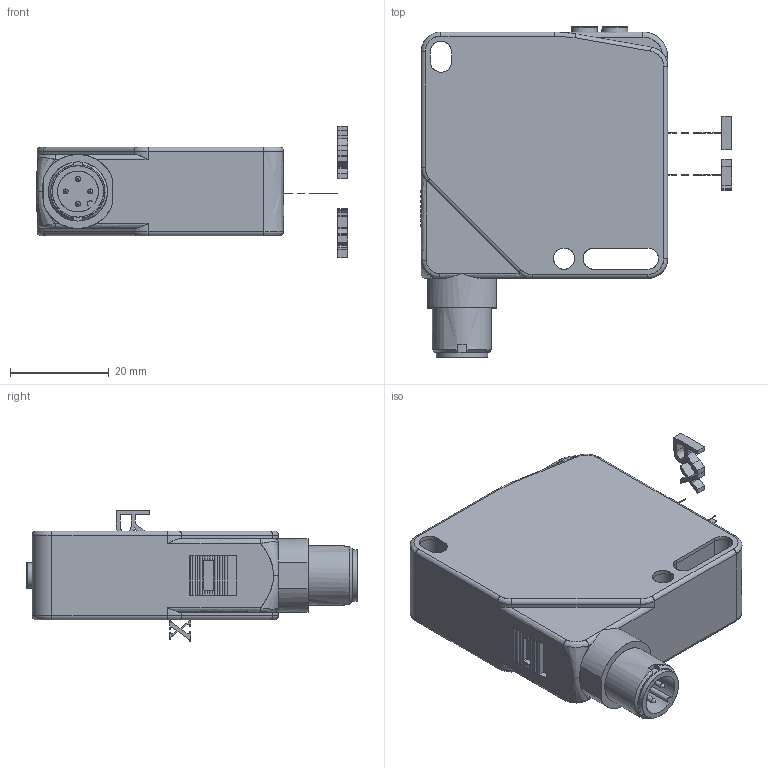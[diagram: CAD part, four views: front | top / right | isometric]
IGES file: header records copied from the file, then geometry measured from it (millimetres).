
Start section: JAMA-IS VERSION  1.0
Global section: file name: D:\CS\IDF\S6_DSD\DSD-0137a S62L-B Conn.igs; native system: NX V7.5; preprocessor: SIEMENS PLM Software NX 7.5; date: 141028.151915; units: millimetre
Bounding box: 63.18 x 67.1 x 26.68 mm (x, y, z)
Surface area: 11455.2 mm2 (no closed solid volume)
Topology: 0 solids, 0 shells, 593 faces, 4902 edges, 4863 vertices
Faces by surface type: bspline 593
